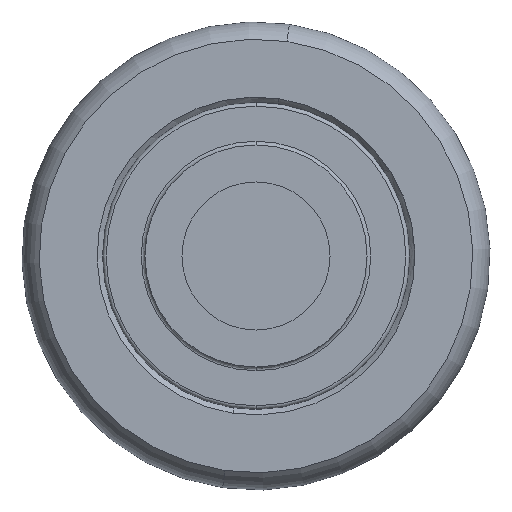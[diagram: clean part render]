
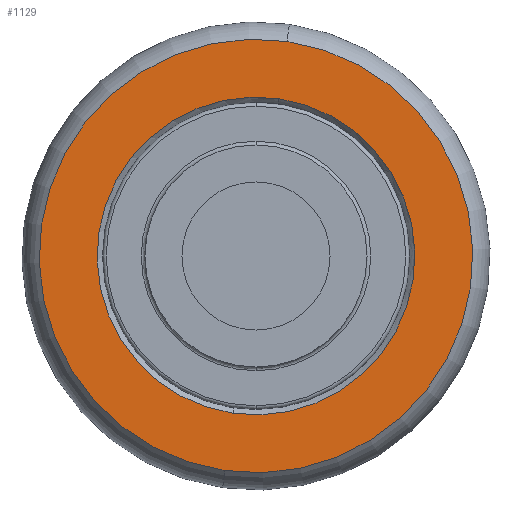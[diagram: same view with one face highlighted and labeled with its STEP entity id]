
A CAD part, left-side view. The second image highlights one B-rep face of the part: STEP entity #1129.
In plain terms, the highlighted planar face has unit normal (-1, 0, 0).
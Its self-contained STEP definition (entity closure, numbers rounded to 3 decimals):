
#238=CARTESIAN_POINT('',(-5.95,-1.672,11.594));
#239=VERTEX_POINT('',#238);
#247=CARTESIAN_POINT('',(-5.95,1.672,-11.594));
#248=VERTEX_POINT('',#247);
#249=CARTESIAN_POINT('',(-5.95,0.,0.));
#250=DIRECTION('',(1.,0.,0.));
#251=DIRECTION('',(0.,0.99,0.143));
#252=AXIS2_PLACEMENT_3D('',#249,#250,#251);
#253=CIRCLE('',#252,11.714);
#254=EDGE_CURVE('',#239,#248,#253,.T.);
#279=CARTESIAN_POINT('',(-5.95,11.594,1.672));
#280=VERTEX_POINT('',#279);
#281=CARTESIAN_POINT('',(-5.95,0.,0.));
#282=DIRECTION('',(1.,0.,0.));
#283=DIRECTION('',(0.,0.99,0.143));
#284=AXIS2_PLACEMENT_3D('',#281,#282,#283);
#285=CIRCLE('',#284,11.714);
#286=EDGE_CURVE('',#248,#280,#285,.T.);
#288=CARTESIAN_POINT('',(-5.95,0.,0.));
#289=DIRECTION('',(1.,0.,0.));
#290=DIRECTION('',(0.,0.99,0.143));
#291=AXIS2_PLACEMENT_3D('',#288,#289,#290);
#292=CIRCLE('',#291,11.714);
#293=EDGE_CURVE('',#280,#239,#292,.T.);
#930=CARTESIAN_POINT('',(-5.95,1.226,-8.498));
#931=VERTEX_POINT('',#930);
#950=CARTESIAN_POINT('',(-5.95,-1.226,8.498));
#951=VERTEX_POINT('',#950);
#959=CARTESIAN_POINT('',(-5.95,8.498,1.226));
#960=VERTEX_POINT('',#959);
#961=CARTESIAN_POINT('',(-5.95,0.,0.));
#962=DIRECTION('',(1.,0.,0.));
#963=DIRECTION('',(0.,0.99,0.143));
#964=AXIS2_PLACEMENT_3D('',#961,#962,#963);
#965=CIRCLE('',#964,8.586);
#966=EDGE_CURVE('',#960,#951,#965,.T.);
#968=CARTESIAN_POINT('',(-5.95,0.,0.));
#969=DIRECTION('',(1.,0.,0.));
#970=DIRECTION('',(0.,0.99,0.143));
#971=AXIS2_PLACEMENT_3D('',#968,#969,#970);
#972=CIRCLE('',#971,8.586);
#973=EDGE_CURVE('',#931,#960,#972,.T.);
#1076=CARTESIAN_POINT('',(-5.95,0.,0.));
#1077=DIRECTION('',(1.,0.,0.));
#1078=DIRECTION('',(0.,0.99,0.143));
#1079=AXIS2_PLACEMENT_3D('',#1076,#1077,#1078);
#1080=CIRCLE('',#1079,8.586);
#1081=EDGE_CURVE('',#951,#931,#1080,.T.);
#1114=CARTESIAN_POINT('',(-5.95,10.046,1.449));
#1115=DIRECTION('',(-1.0,0.0,0.0));
#1116=DIRECTION('',(0.0,-0.143,0.99));
#1117=AXIS2_PLACEMENT_3D('',#1114,#1115,#1116);
#1118=PLANE('',#1117);
#1119=ORIENTED_EDGE('',*,*,#293,.F.);
#1120=ORIENTED_EDGE('',*,*,#286,.F.);
#1121=ORIENTED_EDGE('',*,*,#254,.F.);
#1122=EDGE_LOOP('',(#1119,#1120,#1121));
#1123=FACE_OUTER_BOUND('',#1122,.T.);
#1124=ORIENTED_EDGE('',*,*,#966,.T.);
#1125=ORIENTED_EDGE('',*,*,#1081,.T.);
#1126=ORIENTED_EDGE('',*,*,#973,.T.);
#1127=EDGE_LOOP('',(#1124,#1125,#1126));
#1128=FACE_BOUND('',#1127,.T.);
#1129=ADVANCED_FACE('',(#1123,#1128),#1118,.T.);
